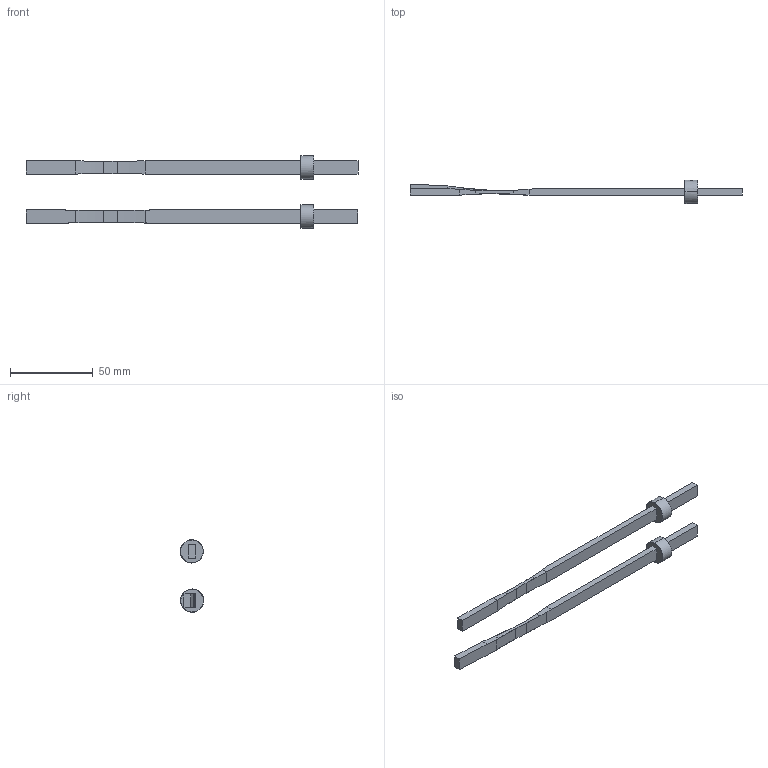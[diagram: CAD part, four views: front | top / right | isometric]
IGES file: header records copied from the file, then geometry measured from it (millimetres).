
Start section: START RECORD GO HERE.
Global section: file name: pf0842wb.igs; native system: DASSAULT SYSTEMES CATIA V5 R20 - www.3ds.com; preprocessor: CATIA Version 5 Release 20 ; author: Utente; organization: NB04-ASUS; date: 20201103.213912; units: millimetre
Bounding box: 200.01 x 14.1 x 43.61 mm (x, y, z)
Surface area: 10931 mm2 (no closed solid volume)
Topology: 0 solids, 0 shells, 74 faces, 368 edges, 364 vertices
Faces by surface type: plane 40, revolution 34
